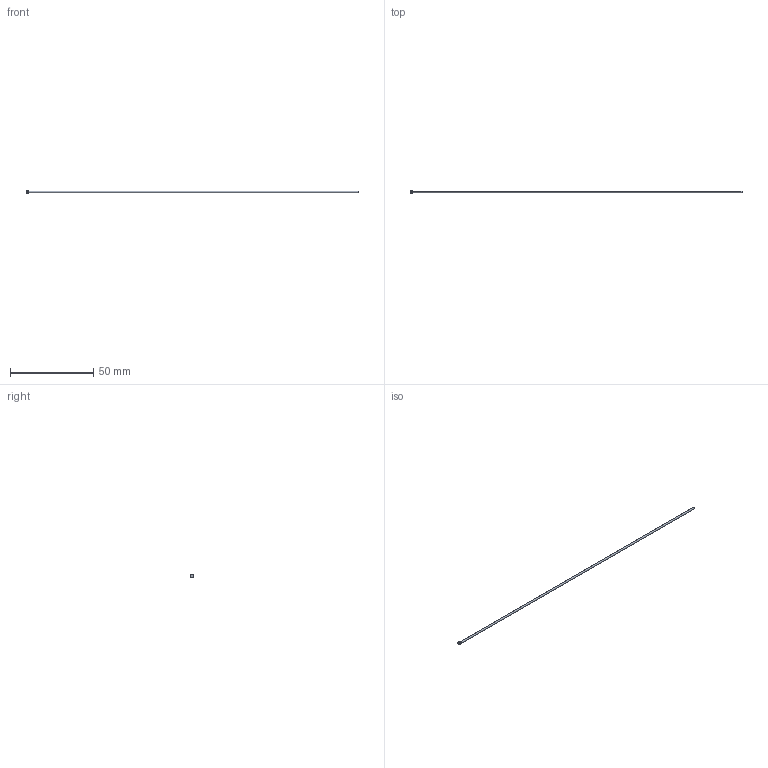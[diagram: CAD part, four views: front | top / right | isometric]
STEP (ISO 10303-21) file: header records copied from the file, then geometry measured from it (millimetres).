
FILE_DESCRIPTION (( 'STEP AP214' ), '1' );
FILE_NAME ('D-1,2x200.STEP', '2020-06-08T09:15:27', ( 'August' ), ( '' ), 'SwSTEP 2.0', 'SolidWorks 2018', '' );
FILE_SCHEMA (( 'AUTOMOTIVE_DESIGN' ));
Length unit declared in the file: millimetre
Products named in the file (1): D-1,2x200
Bounding box: 200 x 2 x 2 mm (x, y, z)
Volume: 227.9 mm3; surface area: 760.9 mm2
Topology: 1 solids, 1 shells, 10 faces, 18 edges, 10 vertices
Faces by surface type: cylinder 4, torus 2, cone 2, plane 2
Entity records: 280 total; most frequent: DIRECTION 52, CARTESIAN_POINT 39, ORIENTED_EDGE 36, AXIS2_PLACEMENT_3D 23, EDGE_CURVE 18, CIRCLE 12, ADVANCED_FACE 10, EDGE_LOOP 10
